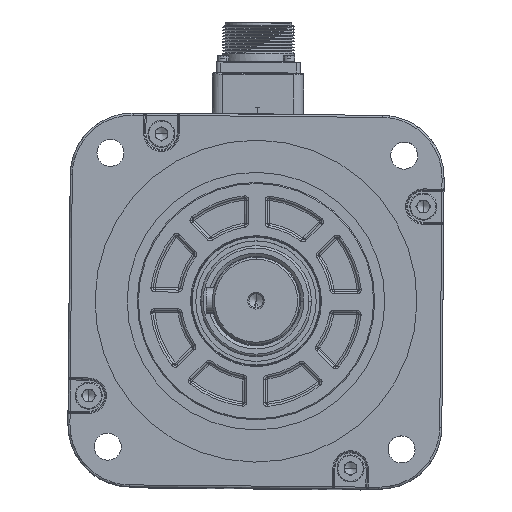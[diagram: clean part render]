
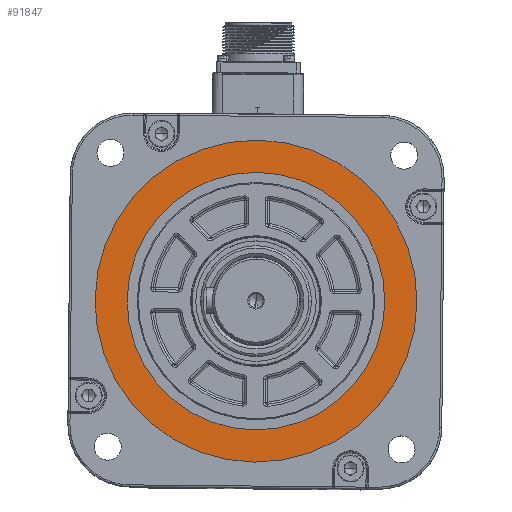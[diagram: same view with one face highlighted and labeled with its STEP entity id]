
A CAD part, top view. The second image highlights one B-rep face of the part: STEP entity #91847.
In plain terms, the highlighted planar face has unit normal (0, 0, 1) as drawn and (0, 0, -1) by its records, which use the part's own axes.
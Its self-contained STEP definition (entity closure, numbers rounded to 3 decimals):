
#541 = CIRCLE ( 'NONE', #112589, 62. ) ;
#941 = AXIS2_PLACEMENT_3D ( 'NONE', #3922, #35169, #123642 ) ;
#3922 = CARTESIAN_POINT ( 'NONE',  ( 0., 0., 1.5 ) ) ;
#5134 = VERTEX_POINT ( 'NONE', #128233 ) ;
#9671 = DIRECTION ( 'NONE',  ( 0., 0., 1. ) ) ;
#9729 = VERTEX_POINT ( 'NONE', #84980 ) ;
#14658 = DIRECTION ( 'NONE',  ( -1., 0., 0. ) ) ;
#22027 = EDGE_CURVE ( 'NONE', #9729, #114707, #89310, .T. ) ;
#24763 = AXIS2_PLACEMENT_3D ( 'NONE', #98509, #54004, #65381 ) ;
#30399 = CIRCLE ( 'NONE', #941, 77.5 ) ;
#30885 = CARTESIAN_POINT ( 'NONE',  ( 0., 0., 1.5 ) ) ;
#31566 = EDGE_LOOP ( 'NONE', ( #45291, #79140 ) ) ;
#31792 = EDGE_LOOP ( 'NONE', ( #130390, #111563 ) ) ;
#35169 = DIRECTION ( 'NONE',  ( 0., 0., -1. ) ) ;
#45291 = ORIENTED_EDGE ( 'NONE', *, *, #62529, .T. ) ;
#50934 = EDGE_CURVE ( 'NONE', #114707, #9729, #30399, .T. ) ;
#52587 = DIRECTION ( 'NONE',  ( -1., 0., 0. ) ) ;
#53497 = AXIS2_PLACEMENT_3D ( 'NONE', #30885, #9671, #52587 ) ;
#54004 = DIRECTION ( 'NONE',  ( 0., 0., -1. ) ) ;
#62529 = EDGE_CURVE ( 'NONE', #109766, #5134, #121943, .T. ) ;
#65381 = DIRECTION ( 'NONE',  ( -1., 0., 0. ) ) ;
#68920 = CARTESIAN_POINT ( 'NONE',  ( 0., 0., 1.5 ) ) ;
#71845 = CARTESIAN_POINT ( 'NONE',  ( 77.5, 0., 1.5 ) ) ;
#77652 = PLANE ( 'NONE',  #24763 ) ;
#79140 = ORIENTED_EDGE ( 'NONE', *, *, #136837, .T. ) ;
#82259 = FACE_BOUND ( 'NONE', #31566, .T. ) ;
#82327 = AXIS2_PLACEMENT_3D ( 'NONE', #138854, #117427, #106465 ) ;
#84980 = CARTESIAN_POINT ( 'NONE',  ( -77.5, 0., 1.5 ) ) ;
#89310 = CIRCLE ( 'NONE', #82327, 77.5 ) ;
#91847 = ADVANCED_FACE ( 'NONE', ( #82259, #124743 ), #77652, .T. ) ;
#98509 = CARTESIAN_POINT ( 'NONE',  ( 0., 0., 1.5 ) ) ;
#99189 = CARTESIAN_POINT ( 'NONE',  ( -62., 0., 1.5 ) ) ;
#106465 = DIRECTION ( 'NONE',  ( -1., 0., 0. ) ) ;
#109766 = VERTEX_POINT ( 'NONE', #99189 ) ;
#110644 = DIRECTION ( 'NONE',  ( 0., 0., 1. ) ) ;
#111563 = ORIENTED_EDGE ( 'NONE', *, *, #50934, .T. ) ;
#112589 = AXIS2_PLACEMENT_3D ( 'NONE', #68920, #110644, #14658 ) ;
#114707 = VERTEX_POINT ( 'NONE', #71845 ) ;
#117427 = DIRECTION ( 'NONE',  ( 0., 0., -1. ) ) ;
#121943 = CIRCLE ( 'NONE', #53497, 62. ) ;
#123642 = DIRECTION ( 'NONE',  ( -1., 0., 0. ) ) ;
#124743 = FACE_OUTER_BOUND ( 'NONE', #31792, .T. ) ;
#128233 = CARTESIAN_POINT ( 'NONE',  ( 62., 0., 1.5 ) ) ;
#130390 = ORIENTED_EDGE ( 'NONE', *, *, #22027, .T. ) ;
#136837 = EDGE_CURVE ( 'NONE', #5134, #109766, #541, .T. ) ;
#138854 = CARTESIAN_POINT ( 'NONE',  ( 0., 0., 1.5 ) ) ;
